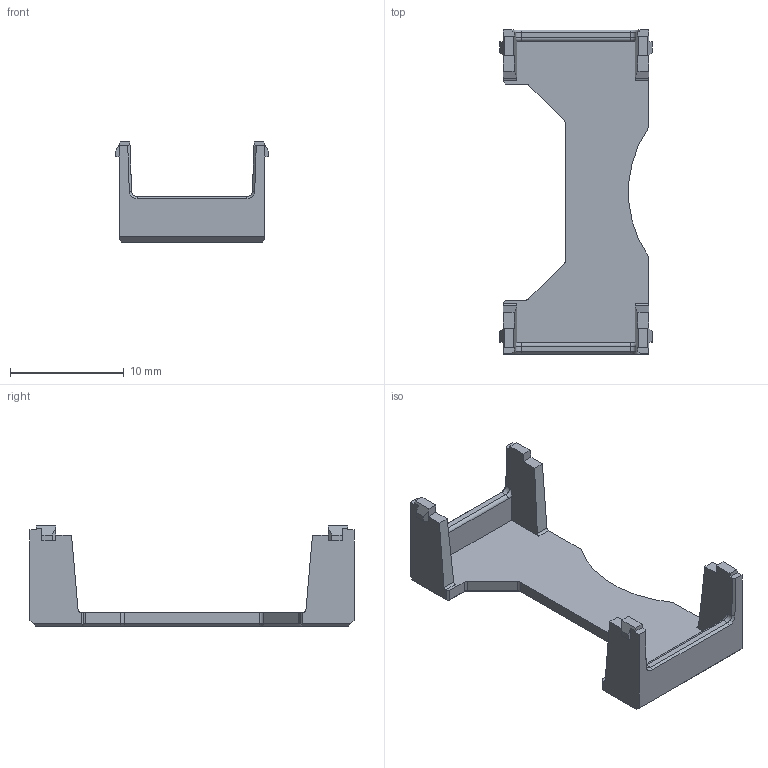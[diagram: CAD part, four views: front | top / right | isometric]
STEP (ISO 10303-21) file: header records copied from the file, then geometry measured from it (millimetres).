
FILE_DESCRIPTION(('Open CASCADE Model'),'2;1');
FILE_NAME('Open CASCADE Shape Model','2026-11-24T19:57:40',('Author'),( 'Open CASCADE'),'Open CASCADE STEP processor 7.8','Open CASCADE 7.8' ,'Unknown');
FILE_SCHEMA(('AUTOMOTIVE_DESIGN { 1 0 10303 214 1 1 1 1 }'));
Length unit declared in the file: millimetre
Products named in the file (1): Open CASCADE STEP translator 7.8 129
Bounding box: 13.4 x 28.5 x 8.8 mm (x, y, z)
Volume: 486.2 mm3; surface area: 995.6 mm2
Topology: 1 solids, 1 shells, 116 faces, 314 edges, 198 vertices
Faces by surface type: plane 84, cylinder 17, cone 11, torus 4
Entity records: 7789 total; most frequent: CARTESIAN_POINT 1536, DIRECTION 1157, LINE 812, VECTOR 812, ORIENTED_EDGE 624, PCURVE 624, DEFINITIONAL_REPRESENTATION 624, EDGE_CURVE 312
